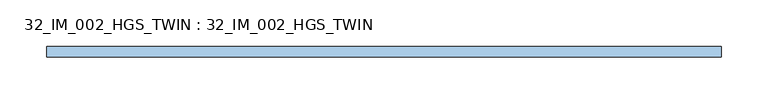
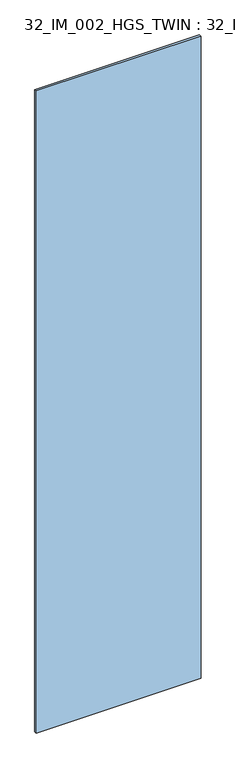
"""IFC4 building model written with IfcOpenShell, lengths in millimetres: window geometry, 32_IM_002_HGS_TWIN : 32_IM_002_HGS_TWIN."""

import ifcopenshell
import ifcopenshell.guid

model = None  # the IFC model being written
_history = None  # IfcOwnerHistory: only IFC2X3 demands one
_inside = {}  # id of a spatial element -> (the spatial element, [elements in it])
_under = {}  # id of a project, library or spatial element -> (it, [spatial elements below it])
_declared = {}  # id of a project -> (the project, [libraries it declares])
_typed = {}  # id of a type object -> (the type object, [elements of that type])
_made_of = {}  # id of a material, layer set ... -> (it, [elements and type objects made of it])


def new_model(schema):
    """Start an empty IFC model of exactly this schema.

    Asked for "IFC4X3", IfcOpenShell would pick the latest addendum, in which some entities
    have other attributes; the version numbers below select the first issue.
    IFC2X3 requires an IfcOwnerHistory on every rooted entity: one is made here for all.
    """
    global model, _history
    if schema == "IFC4X3":
        model = ifcopenshell.file(schema_version=(4, 3, 0, 0))
    else:
        model = ifcopenshell.file(schema=schema)
    _inside.clear()
    _under.clear()
    _declared.clear()
    _typed.clear()
    _made_of.clear()
    _history = None
    if model.schema == "IFC2X3":
        org = make("IfcOrganization", Name="unknown")
        user = make(
            "IfcPersonAndOrganization",
            ThePerson=make("IfcPerson", FamilyName="unknown"),
            TheOrganization=org,
        )
        app = make(
            "IfcApplication",
            ApplicationDeveloper=org,
            Version="unknown",
            ApplicationFullName="unknown",
            ApplicationIdentifier="unknown",
        )
        _history = make(
            "IfcOwnerHistory",
            OwningUser=user,
            OwningApplication=app,
            ChangeAction="ADDED",
            CreationDate=0,
        )
    return model


def make(cls, **values):
    """One entity of the class cls with the attributes given. An attribute that is None is left unset."""
    return model.create_entity(
        cls, **{name: value for name, value in values.items() if value is not None}
    )


def rooted(cls, **values):
    """An entity with a GlobalId (a new one), such as an element, a storey or a relation."""
    return make(cls, GlobalId=ifcopenshell.guid.new(), OwnerHistory=_history, **values)


def si_unit(unit_type, name, prefix=None):
    """IfcSIUnit, for example si_unit("LENGTHUNIT", "METRE", prefix="MILLI")."""
    return make("IfcSIUnit", UnitType=unit_type, Prefix=prefix, Name=name)


def assignment(units):
    """IfcUnitAssignment: the units of a project."""
    return None if units is None else make("IfcUnitAssignment", Units=units)


def point(xyz):
    """IfcCartesianPoint."""
    return None if xyz is None else make("IfcCartesianPoint", Coordinates=xyz)


def direction(xyz):
    """IfcDirection."""
    return None if xyz is None else make("IfcDirection", DirectionRatios=xyz)


def frame(location, z_axis=None, x_axis=None):
    """IfcAxis2Placement3D, a coordinate frame: its origin and axes. An axis left out is left unset."""
    return make(
        "IfcAxis2Placement3D",
        Location=point(location),
        Axis=direction(z_axis),
        RefDirection=direction(x_axis),
    )


def origin():
    """The frame at (0, 0, 0) with its axes left unset."""
    return frame((0.0, 0.0, 0.0))


def origin_with_axes():
    """The frame at (0, 0, 0) with the z axis (0, 0, 1) and the x axis (1, 0, 0) written out."""
    return frame((0.0, 0.0, 0.0), z_axis=(0.0, 0.0, 1.0), x_axis=(1.0, 0.0, 0.0))


def place(relative_to, where):
    """IfcLocalPlacement: puts the frame where relative to a parent placement (None: the world)."""
    return make(
        "IfcLocalPlacement", PlacementRelTo=relative_to, RelativePlacement=where
    )


def context(
    kind, dimensions, precision=None, world=None, true_north=None, identifier=None
):
    """IfcGeometricRepresentationContext, for example the 3D "Model" context."""
    return make(
        "IfcGeometricRepresentationContext",
        ContextIdentifier=identifier,
        ContextType=kind,
        CoordinateSpaceDimension=dimensions,
        Precision=precision,
        WorldCoordinateSystem=world,
        TrueNorth=true_north,
    )


def project(units=None, contexts=None):
    """IfcProject with its units and contexts."""
    return rooted(
        "IfcProject",
        Name="project",
        RepresentationContexts=contexts,
        UnitsInContext=assignment(units),
    )


def spatial(cls, under=None, at=None, **own):
    """A site, building, storey or space (cls), placed at a placement, below another one or the project."""
    s = rooted(cls, ObjectPlacement=at, **own)
    if under is not None:
        _under.setdefault(under.id(), (under, []))[1].append(s)
    return s


def polyline(points):
    """IfcPolyline through the points."""
    return make("IfcPolyline", Points=[point(p) for p in points])


def outline(outer, holes=None, kind="AREA"):
    """IfcArbitraryClosedProfileDef: a profile drawn as a closed curve; with holes, ...WithVoids."""
    if holes is None:
        return make("IfcArbitraryClosedProfileDef", ProfileType=kind, OuterCurve=outer)
    return make(
        "IfcArbitraryProfileDefWithVoids",
        ProfileType=kind,
        OuterCurve=outer,
        InnerCurves=holes,
    )


def extrude(swept, where, along, depth):
    """IfcExtrudedAreaSolid: the profile swept, set in the frame where, extruded along a direction by depth."""
    return make(
        "IfcExtrudedAreaSolid",
        SweptArea=swept,
        Position=where,
        ExtrudedDirection=direction(along),
        Depth=depth,
    )


def shape(context_of_items, identifier, shape_type, items):
    """IfcShapeRepresentation: the items that make up one representation, for example the "Body"."""
    return make(
        "IfcShapeRepresentation",
        ContextOfItems=context_of_items,
        RepresentationIdentifier=identifier,
        RepresentationType=shape_type,
        Items=items,
    )


def source(mapping_origin, context_of_items, identifier, shape_type, items):
    """IfcRepresentationMap: a shape defined once, which mapped items show again and again."""
    return make(
        "IfcRepresentationMap",
        MappingOrigin=mapping_origin,
        MappedRepresentation=shape(context_of_items, identifier, shape_type, items),
    )


def transform(
    local_origin,
    x_axis=None,
    y_axis=None,
    z_axis=None,
    scale=None,
    scale2=None,
    scale3=None,
    uniform=True,
):
    """IfcCartesianTransformationOperator3D, or its non-uniform kind. x_axis, y_axis, z_axis: its Axis1, 2, 3."""
    if uniform:
        return make(
            "IfcCartesianTransformationOperator3D",
            Axis1=direction(x_axis),
            Axis2=direction(y_axis),
            LocalOrigin=point(local_origin),
            Scale=scale,
            Axis3=direction(z_axis),
        )
    return make(
        "IfcCartesianTransformationOperator3DnonUniform",
        Axis1=direction(x_axis),
        Axis2=direction(y_axis),
        LocalOrigin=point(local_origin),
        Scale=scale,
        Axis3=direction(z_axis),
        Scale2=scale2,
        Scale3=scale3,
    )


def mapped(mapping_source, mapping_target):
    """IfcMappedItem: shows the shape of a source again, moved by a transform."""
    return make(
        "IfcMappedItem", MappingSource=mapping_source, MappingTarget=mapping_target
    )


def made_of(thing, what):
    """Note that an element or type object is made of a material, layer set ...; save() writes the relation."""
    if what is not None:
        _made_of.setdefault(what.id(), (what, []))[1].append(thing)
    return thing


def element(
    cls,
    number,
    at=None,
    inside=None,
    cuts=None,
    type_object=None,
    material=None,
    context=None,
    identifier="Body",
    shape_type=None,
    held_by="IfcProductDefinitionShape",
    body=None,
    shapes=None,
    **own,
):
    """One element of the class cls, such as IfcWall. Its Tag is "e" and its number.

    at: its placement. inside: the storey or other place that contains it. cuts: it is an
    opening in that element (IfcRelVoidsElement). A single representation is given by context,
    identifier, shape_type and body (its items); several are given by shapes. held_by: the class
    of the entity that holds the representations. save() writes the other relations.
    """
    e = rooted(cls, Tag="e%d" % number, ObjectPlacement=at, **own)
    if body is not None:
        shapes = [shape(context, identifier, shape_type, body)]
    if shapes is not None:
        e.Representation = make(held_by, Representations=shapes)
    if inside is not None:
        _inside.setdefault(inside.id(), (inside, []))[1].append(e)
    if cuts is not None:
        rooted(
            "IfcRelVoidsElement", RelatingBuildingElement=cuts, RelatedOpeningElement=e
        )
    if type_object is not None:
        _typed.setdefault(type_object.id(), (type_object, []))[1].append(e)
    return made_of(e, material)


def aggregate(whole, parts):
    """IfcRelAggregates: a whole, such as a stair, and the parts it consists of."""
    return rooted("IfcRelAggregates", RelatingObject=whole, RelatedObjects=parts)


def save(model, path):
    """Write the relations noted so far, then the file.

    IfcRelAggregates (storeys below a building ...), IfcRelContainedInSpatialStructure (elements
    in a storey), IfcRelDefinesByType, IfcRelAssociatesMaterial and IfcRelDeclares: one each for
    every whole, place, type object, material and project.
    """
    for whole, parts in _under.values():
        aggregate(whole, parts)
    for where, things in _inside.values():
        rooted(
            "IfcRelContainedInSpatialStructure",
            RelatedElements=things,
            RelatingStructure=where,
        )
    for kind, things in _typed.values():
        rooted("IfcRelDefinesByType", RelatedObjects=things, RelatingType=kind)
    for what, things in _made_of.values():
        rooted("IfcRelAssociatesMaterial", RelatedObjects=things, RelatingMaterial=what)
    for by, libraries in _declared.values():
        rooted("IfcRelDeclares", RelatingContext=by, RelatedDefinitions=libraries)
    model.write(path)


def window_32_im_002_hgs_twin_32_im_002_hgs_twin_9756e7ce(model_context):
    return source(origin(), model_context, "Body", "SweptSolid", [
        extrude(outline(polyline([(359.25, 5.4), (359.25, -5.4), (-359.25, -5.4), (-359.25, 5.4), (359.25, 5.4)])), origin_with_axes(), (0.0, 0.0, 1.0), 2956.0),
    ])


if __name__ == "__main__":
    model = new_model("IFC4")
    model_context = context("Model", 3, world=origin())
    ifc_project = project(units=[si_unit("LENGTHUNIT", "METRE", prefix="MILLI")], contexts=[model_context])
    site = spatial("IfcSite", under=ifc_project)
    building = spatial("IfcBuilding", under=site)
    placement = place(None, origin())
    window_32_im_002_hgs_twin_32_im_002_hgs_twin_shape = window_32_im_002_hgs_twin_32_im_002_hgs_twin_9756e7ce(model_context)
    element("IfcWindow", 1, ObjectType="32_IM_002_HGS_TWIN : 32_IM_002_HGS_TWIN", at=placement, inside=building, context=model_context, shape_type="MappedRepresentation", body=[
        mapped(window_32_im_002_hgs_twin_32_im_002_hgs_twin_shape, transform((0.0, 0.0, 0.0), x_axis=(1.0, 0.0, 0.0), y_axis=(0.0, 1.0, 0.0), z_axis=(0.0, 0.0, 1.0))),
    ])
    save(model, "model.ifc")
